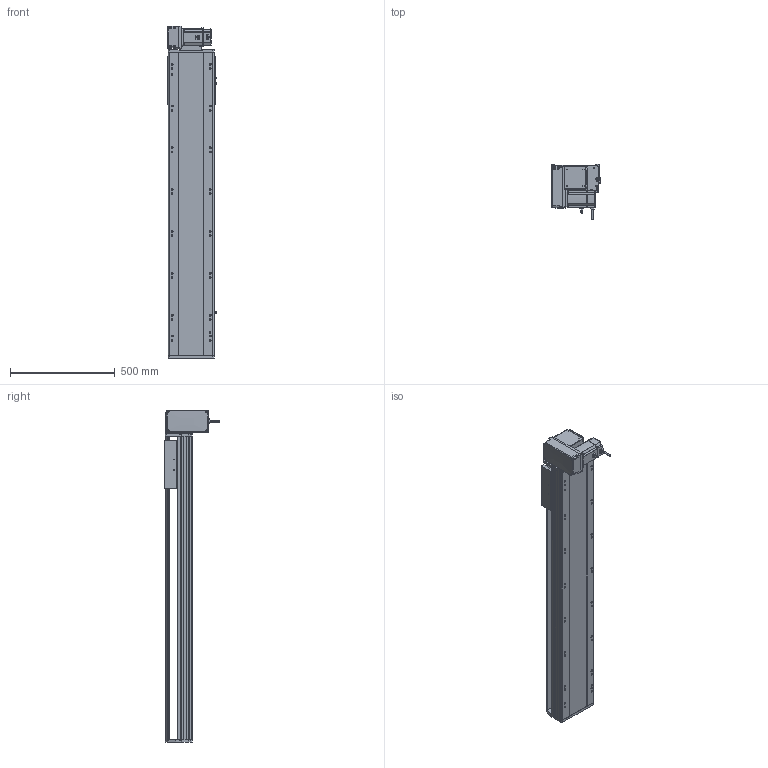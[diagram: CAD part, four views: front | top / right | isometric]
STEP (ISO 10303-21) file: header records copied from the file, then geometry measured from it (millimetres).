
FILE_DESCRIPTION (( 'STEP AP214' ), '1' );
FILE_NAME ('RTB22S-XX-1100-LM-M75-C4.STEP', '2025-12-12T03:50:15', ( '' ), ( '' ), 'SwSTEP 2.0', 'SolidWorks 2018', '' );
FILE_SCHEMA (( 'AUTOMOTIVE_DESIGN' ));
Length unit declared in the file: millimetre
Products named in the file (14): RTB22S-GY-008-M75--萇儂啣^RMP22S-LM-々湍釱蚾饜_RTB22S-XX-XX-LM-M75-C4; RTH22-GY-013外置感应片^RTB22S-XX-XX-LM-M75-C4; RTB22S-GY-005P^RMP22S-LM-々湍釱蚾饜_RTB22S-XX-XX-LM-M75-C4; 750W萇儂^RTB22S-XX-XX-LM-M75-C4; OMRON EE-SX672 传感器^RTB22S-XX-XX-LM-M75-C4; RTB22S-GY-001耜裔^RTB22S-XX-XX-LM-M75-C4; RTB22S-L-011菁釱^RTB22S-XX-XX-LM-M75-C4; RTB22S-GY-007奻裔^RTB22S-XX-XX-LM-M75-C4; RTB22S-L-004賑釱^RTB22S-XX-XX-LM-M75-C4; RTB22S-GY-014--々湍釱^RMP22S-LM-々湍釱蚾饜_RTB22S-XX-XX-LM-M75-C4; RMP22S-LM-々湍釱蚾饜^RTB22S-XX-XX-LM-M75-C4; RTB22S-XX-1100-LM-M75-C4; RTB22S-GY-017P^RMP22S-LM-々湍釱蚾饜_RTB22S-XX-XX-LM-M75-C4; RTB22S-GY-018P^RMP22S-LM-々湍釱蚾饜_RTB22S-XX-XX-LM-M75-C4
Assembly tree (16 placements, depth 3):
  RTB22S-XX-1100-LM-M75-C4
    RTB22S-L-011菁釱^RTB22S-XX-XX-LM-M75-C4
    RTB22S-GY-001耜裔^RTB22S-XX-XX-LM-M75-C4
    750W萇儂^RTB22S-XX-XX-LM-M75-C4
    RTB22S-GY-007奻裔^RTB22S-XX-XX-LM-M75-C4
    RTB22S-L-004賑釱^RTB22S-XX-XX-LM-M75-C4
    RTH22-GY-013外置感应片^RTB22S-XX-XX-LM-M75-C4
    OMRON EE-SX672 传感器^RTB22S-XX-XX-LM-M75-C4  x3
    RMP22S-LM-々湍釱蚾饜^RTB22S-XX-XX-LM-M75-C4
      RTB22S-GY-014--々湍釱^RMP22S-LM-々湍釱蚾饜_RTB22S-XX-XX-LM-M75-C4
      RTB22S-GY-017P^RMP22S-LM-々湍釱蚾饜_RTB22S-XX-XX-LM-M75-C4  x2
      RTB22S-GY-005P^RMP22S-LM-々湍釱蚾饜_RTB22S-XX-XX-LM-M75-C4
      RTB22S-GY-008-M75--萇儂啣^RMP22S-LM-々湍釱蚾饜_RTB22S-XX-XX-LM-M75-C4
      RTB22S-GY-018P^RMP22S-LM-々湍釱蚾饜_RTB22S-XX-XX-LM-M75-C4
Bounding box: 238.5 x 264.7 x 1587.5 mm (x, y, z)
Volume: 22452916.4 mm3; surface area: 2333211.9 mm2
Topology: 15 solids, 15 shells, 1983 faces, 5386 edges, 3452 vertices
Faces by surface type: plane 915, cylinder 622, bspline 296, cone 138, sphere 8, torus 4
Entity records: 52768 total; most frequent: CARTESIAN_POINT 15172, ORIENTED_EDGE 7560, DIRECTION 7274, EDGE_CURVE 3780, AXIS2_PLACEMENT_3D 2566, VERTEX_POINT 2456, LINE 2142, VECTOR 2142
